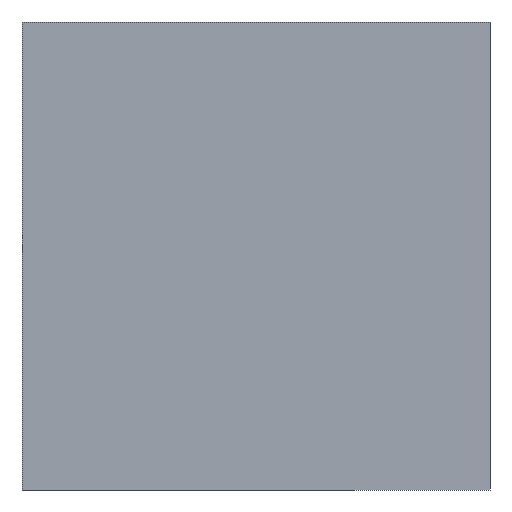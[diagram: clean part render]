
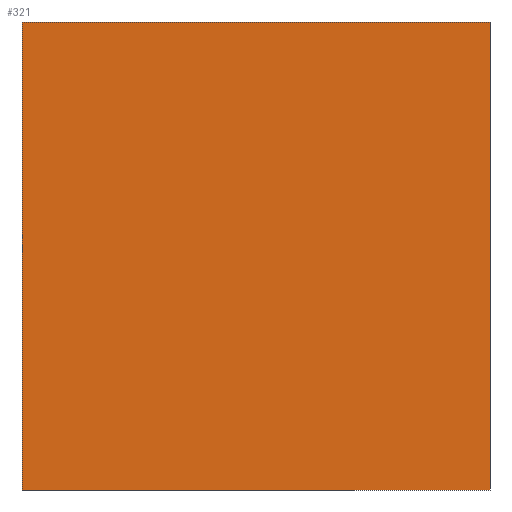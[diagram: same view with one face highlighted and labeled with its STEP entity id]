
A CAD part, left-side view. The second image highlights one B-rep face of the part: STEP entity #321.
In plain terms, the highlighted planar face has unit normal (-1, 0, 0).
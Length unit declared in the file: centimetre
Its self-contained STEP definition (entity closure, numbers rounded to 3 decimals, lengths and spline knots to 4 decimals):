
#25 = DIRECTION ( 'NONE',  ( 0., 0., -1. ) ) ;
#26 = VECTOR ( 'NONE', #328, 100. ) ;
#58 = CARTESIAN_POINT ( 'NONE',  ( 0., 1000., 1000. ) ) ;
#60 = ORIENTED_EDGE ( 'NONE', *, *, #234, .F. ) ;
#72 = ORIENTED_EDGE ( 'NONE', *, *, #101, .F. ) ;
#76 = CARTESIAN_POINT ( 'NONE',  ( 0., 1000., 0. ) ) ;
#81 = CARTESIAN_POINT ( 'NONE',  ( 0., 0., 1000. ) ) ;
#98 = CARTESIAN_POINT ( 'NONE',  ( 0., 1000., 1000. ) ) ;
#101 = EDGE_CURVE ( 'NONE', #187, #150, #445, .T. ) ;
#102 = DIRECTION ( 'NONE',  ( 1., 0., 0. ) ) ;
#118 = DIRECTION ( 'NONE',  ( 0., -1., 0. ) ) ;
#130 = VECTOR ( 'NONE', #118, 100. ) ;
#137 = EDGE_CURVE ( 'NONE', #187, #462, #190, .T. ) ;
#145 = CARTESIAN_POINT ( 'NONE',  ( 0., 0., 0. ) ) ;
#148 = AXIS2_PLACEMENT_3D ( 'NONE', #58, #102, #25 ) ;
#150 = VERTEX_POINT ( 'NONE', #81 ) ;
#178 = LINE ( 'NONE', #249, #26 ) ;
#187 = VERTEX_POINT ( 'NONE', #98 ) ;
#190 = LINE ( 'NONE', #302, #290 ) ;
#222 = LINE ( 'NONE', #430, #326 ) ;
#234 = EDGE_CURVE ( 'NONE', #150, #250, #222, .T. ) ;
#249 = CARTESIAN_POINT ( 'NONE',  ( 0., 1000., 0. ) ) ;
#250 = VERTEX_POINT ( 'NONE', #145 ) ;
#255 = PLANE ( 'NONE',  #148 ) ;
#290 = VECTOR ( 'NONE', #411, 100. ) ;
#302 = CARTESIAN_POINT ( 'NONE',  ( 0., 1000., 1000. ) ) ;
#321 = ADVANCED_FACE ( 'NONE', ( #467 ), #255, .F. ) ;
#323 = EDGE_LOOP ( 'NONE', ( #356, #60, #72, #392 ) ) ;
#326 = VECTOR ( 'NONE', #435, 100. ) ;
#328 = DIRECTION ( 'NONE',  ( 0., -1., 0. ) ) ;
#346 = EDGE_CURVE ( 'NONE', #462, #250, #178, .T. ) ;
#356 = ORIENTED_EDGE ( 'NONE', *, *, #346, .T. ) ;
#392 = ORIENTED_EDGE ( 'NONE', *, *, #137, .T. ) ;
#411 = DIRECTION ( 'NONE',  ( 0., 0., -1. ) ) ;
#416 = CARTESIAN_POINT ( 'NONE',  ( 0., 1000., 1000. ) ) ;
#430 = CARTESIAN_POINT ( 'NONE',  ( 0., 0., 1000. ) ) ;
#435 = DIRECTION ( 'NONE',  ( 0., 0., -1. ) ) ;
#445 = LINE ( 'NONE', #416, #130 ) ;
#462 = VERTEX_POINT ( 'NONE', #76 ) ;
#467 = FACE_OUTER_BOUND ( 'NONE', #323, .T. ) ;
